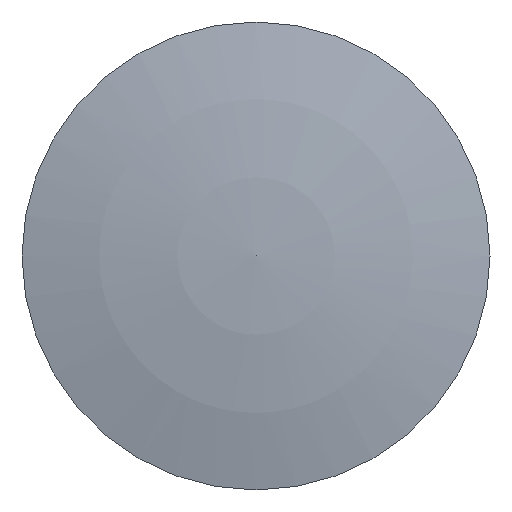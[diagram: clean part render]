
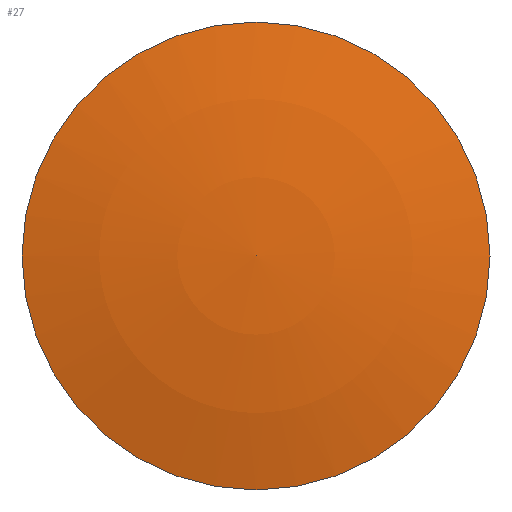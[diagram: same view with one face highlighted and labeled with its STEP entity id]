
A CAD part, top view. The second image highlights one B-rep face of the part: STEP entity #27.
In plain terms, the highlighted spherical face has radius 1539 mm.
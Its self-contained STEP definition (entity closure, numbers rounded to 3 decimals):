
#27 = ADVANCED_FACE( '', ( #50, #51 ), #52, .T. );
#50 = FACE_BOUND( '', #69, .T. );
#51 = FACE_OUTER_BOUND( '', #70, .T. );
#52 = SPHERICAL_SURFACE( '', #71, 1539. );
#69 = VERTEX_LOOP( '', #82 );
#70 = EDGE_LOOP( '', ( #83 ) );
#71 = AXIS2_PLACEMENT_3D( '', #84, #85, #86 );
#82 = VERTEX_POINT( '', #100 );
#83 = ORIENTED_EDGE( '', *, *, #101, .T. );
#84 = CARTESIAN_POINT( '', ( 0., 0., -1491.5 ) );
#85 = DIRECTION( '', ( 0., 0., 1. ) );
#86 = DIRECTION( '', ( 0., -1., 0. ) );
#100 = CARTESIAN_POINT( '', ( 0., 0., 47.5 ) );
#101 = EDGE_CURVE( '', #107, #107, #108, .T. );
#107 = VERTEX_POINT( '', #114 );
#108 = CIRCLE( '', #115, 360. );
#114 = CARTESIAN_POINT( '', ( 360., 0., 4.802 ) );
#115 = AXIS2_PLACEMENT_3D( '', #120, #121, #122 );
#120 = CARTESIAN_POINT( '', ( 0., 0., 4.802 ) );
#121 = DIRECTION( '', ( 0., 0., 1. ) );
#122 = DIRECTION( '', ( 1., 0., 0. ) );
